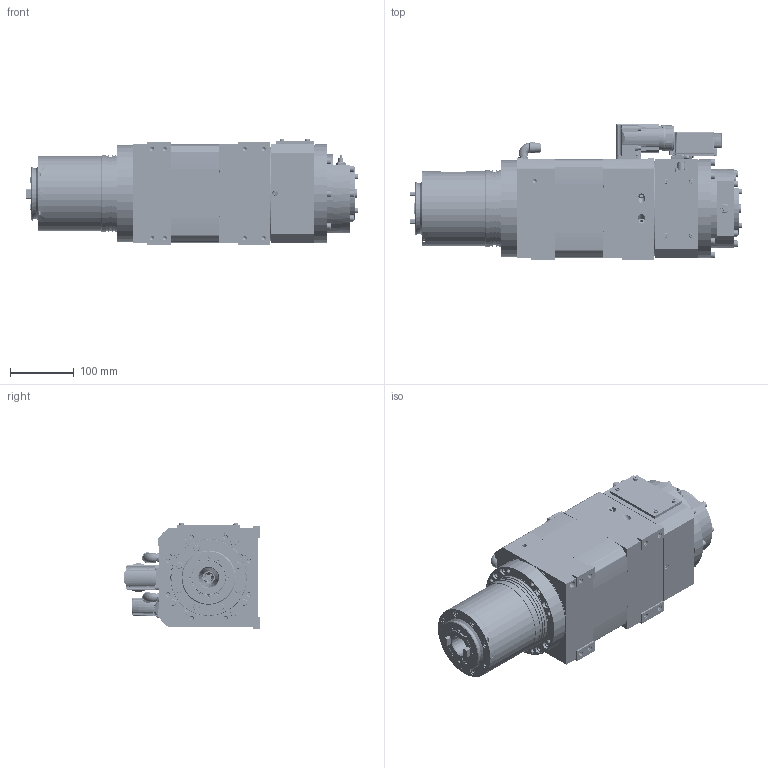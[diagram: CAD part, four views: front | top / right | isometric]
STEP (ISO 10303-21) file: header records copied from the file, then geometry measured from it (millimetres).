
FILE_DESCRIPTION(/* description */ (''),/* implementation_level */ '2;1');
FILE_NAME(/* name */ 'EABA089BP0-CE0 mit SMI20.stp',/* time_stamp */ '2024-11-11T09:12:59+01:00',/* author */ (''),/* organization */ (''),/* preprocessor_version */ 'ST-DEVELOPER v18.102',/* originating_system */ 'SIEMENS PLM Software NX2206.5001',/* authorisation */ '');
FILE_SCHEMA (('AUTOMOTIVE_DESIGN { 1 0 10303 214 3 1 1 1 }'));
Products named in the file (1): Steptest_objects
Bounding box: 521.4 x 212.21 x 165.1 mm (x, y, z)
Volume: 5556841.5 mm3; surface area: 1092789.2 mm2
Topology: 116 solids, 518 shells, 5337 faces, 14222 edges, 9899 vertices
Faces by surface type: plane 2627, cylinder 1615, cone 643, torus 249, bspline 124, extrusion 54, sphere 25
Full cylindrical faces by diameter (mm): 0.625 x1, 0.77 x5, 0.8 x1, 1 x4, 1.05 x5, 2 x3, 2.016 x1, 2.135 x4, 2.5 x5, 2.594 x10, 3 x13, 3.1 x1, 3.2 x4, 3.3 x1, 3.432 x20, 3.5 x1, 3.6 x4, 3.8 x4, 3.838 x1, 4 x22, 4.1 x1, 4.2 x6, 4.351 x5, 4.5 x8, 4.6 x4, 5 x8, 5.1 x1, 5.188 x38, 5.5 x16, 6 x47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
Entity records: 189703 total; most frequent: CARTESIAN_POINT 50087, DIRECTION 23716, ORIENTED_EDGE 22599, EDGE_CURVE 12399, VERTEX_POINT 9422, AXIS2_PLACEMENT_3D 9293, EDGE_LOOP 7329, ADVANCED_FACE 5334
